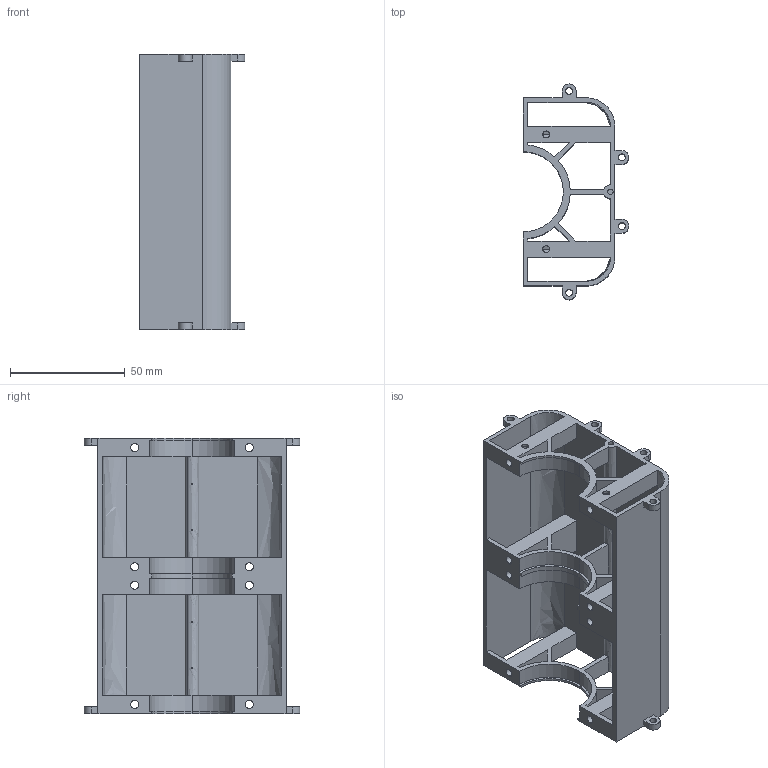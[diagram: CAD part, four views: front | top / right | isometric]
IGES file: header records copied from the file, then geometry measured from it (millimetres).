
Start section: IMSI TurboCAD v14.0
Global section: author: NULL; organization: NULL; date: 20231227.191622; units: millimetre
Bounding box: 46 x 94 x 120 mm (x, y, z)
Surface area: 60839.6 mm2 (no closed solid volume)
Topology: 0 solids, 0 shells, 213 faces, 1320 edges, 1320 vertices
Faces by surface type: revolution 112, extrusion 101
